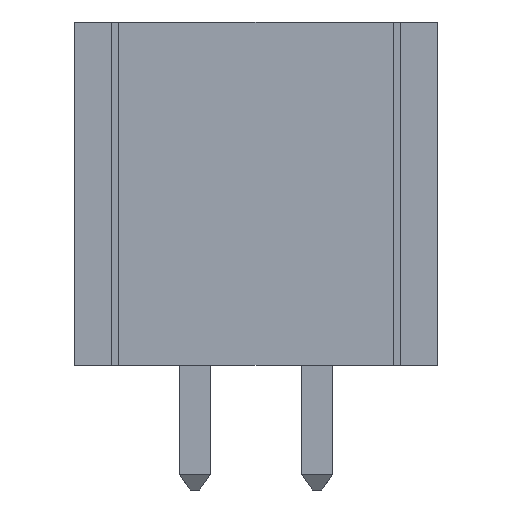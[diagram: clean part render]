
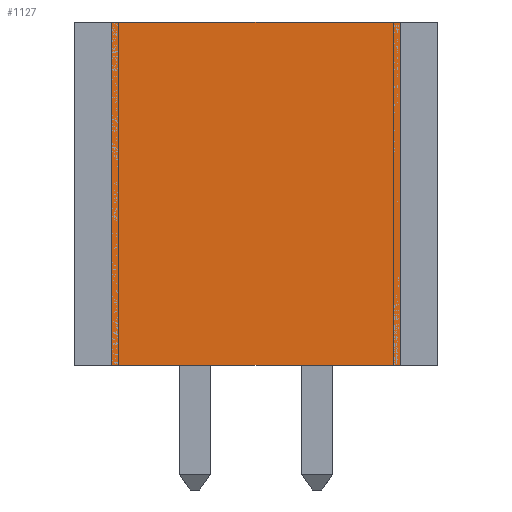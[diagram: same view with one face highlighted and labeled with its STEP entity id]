
A CAD part, front view. The second image highlights one B-rep face of the part: STEP entity #1127.
In plain terms, the highlighted planar face has unit normal (0, -1, 0).
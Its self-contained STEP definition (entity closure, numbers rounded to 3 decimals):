
#1011 = EDGE_CURVE('',#1012,#1014,#1016,.T.);
#1012 = VERTEX_POINT('',#1013);
#1013 = CARTESIAN_POINT('',(-2.946,-3.312,7.023));
#1014 = VERTEX_POINT('',#1015);
#1015 = CARTESIAN_POINT('',(-2.946,-3.312,0.013));
#1016 = LINE('',#1017,#1018);
#1017 = CARTESIAN_POINT('',(-2.946,-3.312,7.023));
#1018 = VECTOR('',#1019,1.);
#1019 = DIRECTION('',(0.,0.,-1.));
#1049 = EDGE_CURVE('',#1014,#1050,#1052,.T.);
#1050 = VERTEX_POINT('',#1051);
#1051 = CARTESIAN_POINT('',(2.946,-3.312,0.013));
#1052 = LINE('',#1053,#1054);
#1053 = CARTESIAN_POINT('',(-2.946,-3.312,0.013));
#1054 = VECTOR('',#1055,1.);
#1055 = DIRECTION('',(1.,0.,0.));
#1079 = EDGE_CURVE('',#1050,#1080,#1082,.T.);
#1080 = VERTEX_POINT('',#1081);
#1081 = CARTESIAN_POINT('',(2.946,-3.312,7.023));
#1082 = LINE('',#1083,#1084);
#1083 = CARTESIAN_POINT('',(2.946,-3.312,0.013));
#1084 = VECTOR('',#1085,1.);
#1085 = DIRECTION('',(0.,0.,1.));
#1109 = EDGE_CURVE('',#1080,#1012,#1110,.T.);
#1110 = LINE('',#1111,#1112);
#1111 = CARTESIAN_POINT('',(2.946,-3.312,7.023));
#1112 = VECTOR('',#1113,1.);
#1113 = DIRECTION('',(-1.,0.,0.));
#1127 = ADVANCED_FACE('',(#1128),#1134,.F.);
#1128 = FACE_BOUND('',#1129,.T.);
#1129 = EDGE_LOOP('',(#1130,#1131,#1132,#1133));
#1130 = ORIENTED_EDGE('',*,*,#1011,.T.);
#1131 = ORIENTED_EDGE('',*,*,#1049,.T.);
#1132 = ORIENTED_EDGE('',*,*,#1079,.T.);
#1133 = ORIENTED_EDGE('',*,*,#1109,.T.);
#1134 = PLANE('',#1135);
#1135 = AXIS2_PLACEMENT_3D('',#1136,#1137,#1138);
#1136 = CARTESIAN_POINT('',(-2.946,-3.312,7.023));
#1137 = DIRECTION('',(0.,1.,0.));
#1138 = DIRECTION('',(0.643,0.,-0.765));
